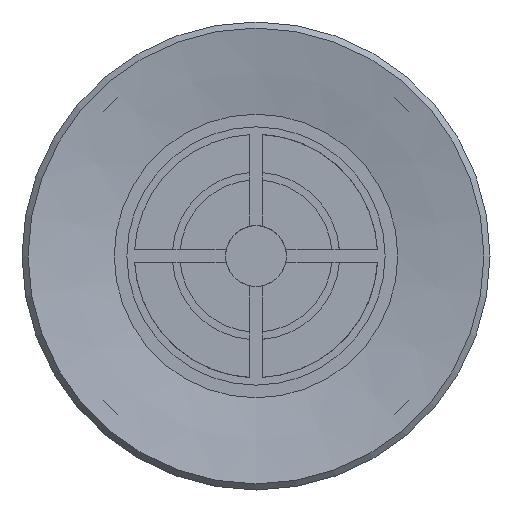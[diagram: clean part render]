
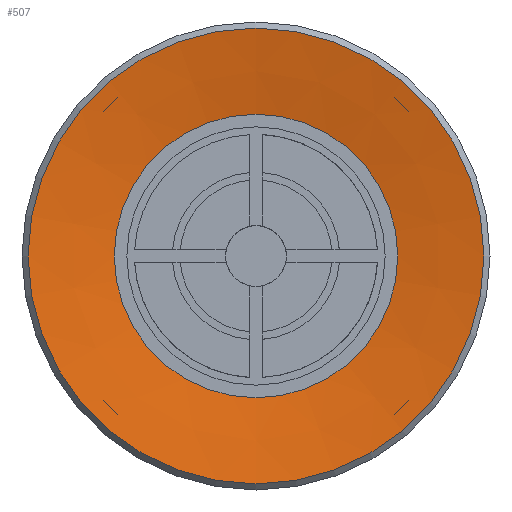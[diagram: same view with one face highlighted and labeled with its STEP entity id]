
A CAD part, front view. The second image highlights one B-rep face of the part: STEP entity #507.
In plain terms, the highlighted conical face has half-angle 80 degrees and reference radius 4.664 mm.
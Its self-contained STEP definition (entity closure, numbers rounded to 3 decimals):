
#507=ADVANCED_FACE('',(#812,#813),#814,.F.);
#812=FACE_BOUND('',#1167,.T.);
#813=FACE_OUTER_BOUND('',#1168,.T.);
#814=CONICAL_SURFACE('',#1169,4.664,1.396);
#1167=EDGE_LOOP('',(#1993));
#1168=EDGE_LOOP('',(#1994));
#1169=AXIS2_PLACEMENT_3D('',#1995,#1996,#1997);
#1993=ORIENTED_EDGE('',*,*,#2427,.F.);
#1994=ORIENTED_EDGE('',*,*,#2494,.T.);
#1995=CARTESIAN_POINT('',(0.0,0.5,0.0));
#1996=DIRECTION('',(-0.0,-1.0,0.));
#1997=DIRECTION('',(0.0,0.,-1.0));
#2427=EDGE_CURVE('',#2822,#2822,#2823,.T.);
#2494=EDGE_CURVE('',#2944,#2944,#2945,.T.);
#2822=VERTEX_POINT('',#3686);
#2823=CIRCLE('',#3687,4.664);
#2944=VERTEX_POINT('',#3894);
#2945=CIRCLE('',#3895,7.5);
#3686=CARTESIAN_POINT('',(0.0,0.5,-4.664));
#3687=AXIS2_PLACEMENT_3D('',#4263,#4264,#4265);
#3894=CARTESIAN_POINT('',(0.0,0.,-7.5));
#3895=AXIS2_PLACEMENT_3D('',#4378,#4379,#4380);
#4263=CARTESIAN_POINT('',(0.0,0.5,0.0));
#4264=DIRECTION('',(0.0,-1.0,0.));
#4265=DIRECTION('',(0.0,0.,-1.0));
#4378=CARTESIAN_POINT('',(0.0,0.0,0.0));
#4379=DIRECTION('',(0.0,-1.0,0.));
#4380=DIRECTION('',(0.0,0.,-1.0));
